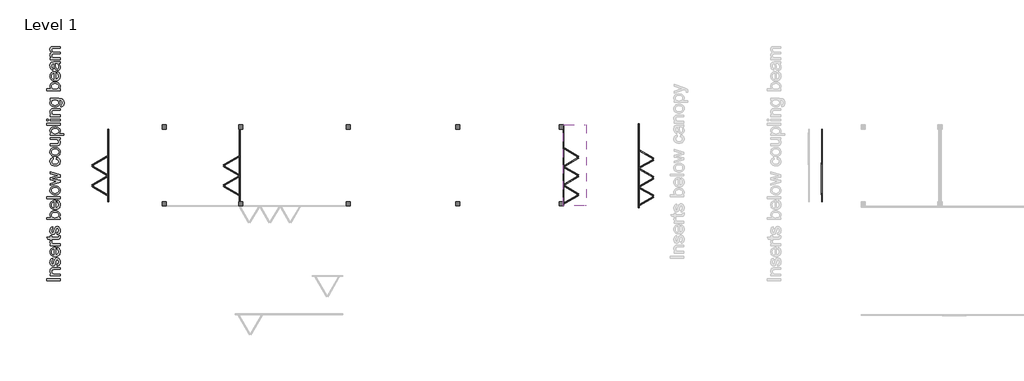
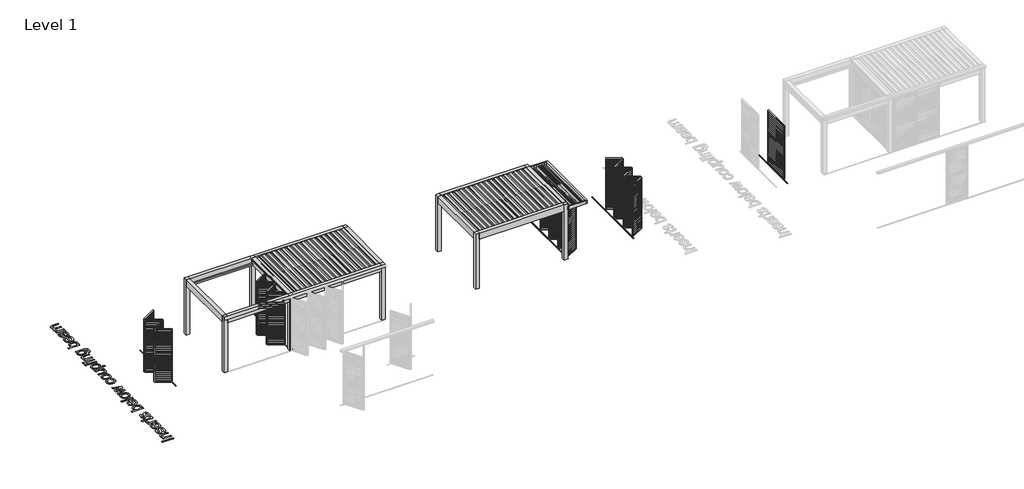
# One storey, part 21 of 80: 9 proxies.
"""IFC4 building model written with IfcOpenShell, lengths in millimetres."""

from ifc_helpers import new_model, si_unit, origin, origin_with_axes, place, context, project, spatial, polyline, outline, extrude, transform, mapped, element, save
from components import generic_models_2752aaec, generic_models_da8762af, generic_models_a6aa64ab, generic_models_b6bb1ce4, generic_models_25cf847c, generic_models_ec5acdc6, generic_models_d351d88b, generic_models_e878d195, generic_models_d69d8d74, generic_models_e3120b8a, generic_models_33ef9a21, generic_models_0657f29a, generic_models_f342dfb5, generic_models_eb283adb, generic_models_13bb7243

model = new_model("IFC4")

# Units and contexts
model_context = context("Model", 3, world=origin())
ifc_project = project(units=[si_unit("LENGTHUNIT", "METRE", prefix="MILLI")], contexts=[model_context])

# Site, building, storey
site = spatial("IfcSite", under=ifc_project)
building = spatial("IfcBuilding", under=site)
storey = spatial("IfcBuildingStorey", under=building, Name="Level 1", Elevation=0.0)

# Proxies
placement = place(None, origin())
generic_models_shape = generic_models_2752aaec(model_context)
generic_models_2_shape = generic_models_da8762af(model_context)
generic_models_3_shape = generic_models_a6aa64ab(model_context)
element("IfcBuildingElementProxy", 1, Name="Renson_Amani_Loggia_Paro_Aluminium_Folding : Renson_Amani_Loggia_Paro_Aluminium_Folding", ObjectType="Renson_Amani_Loggia_Paro_Aluminium_Folding : Renson_Amani_Loggia_Paro_Aluminium_Folding", at=placement, inside=storey, context=model_context, shape_type="MappedRepresentation", body=[
    mapped(generic_models_shape, transform((386870.8031933, -39196.7968905, 0.0), x_axis=(0.0, -1.0, 0.0), y_axis=(1.0, 0.0, 0.0), z_axis=(0.0, 0.0, 1.0))),
    mapped(generic_models_2_shape, transform((386870.8031933, -39196.7968905, 0.0), x_axis=(0.0, -1.0, 0.0), y_axis=(1.0, 0.0, 0.0), z_axis=(0.0, 0.0, 1.0))),
    mapped(generic_models_3_shape, transform((386870.8031933, -39196.7968905, 0.0), x_axis=(0.0, -1.0, 0.0), y_axis=(1.0, 0.0, 0.0), z_axis=(0.0, 0.0, 1.0))),
])
element("IfcBuildingElementProxy", 2, Name="Renson_Amani_Loggia_Paro_Aluminium_Folding : Renson_Amani_Loggia_Paro_Aluminium_Folding", ObjectType="Renson_Amani_Loggia_Paro_Aluminium_Folding : Renson_Amani_Loggia_Paro_Aluminium_Folding", at=placement, inside=storey, context=model_context, shape_type="MappedRepresentation", body=[
    mapped(generic_models_shape, transform((391770.8031933, -39196.7968905, 0.0), x_axis=(0.0, -1.0, 0.0), y_axis=(1.0, 0.0, 0.0), z_axis=(0.0, 0.0, 1.0))),
    mapped(generic_models_2_shape, transform((391770.8031933, -39196.7968905, 0.0), x_axis=(0.0, -1.0, 0.0), y_axis=(1.0, 0.0, 0.0), z_axis=(0.0, 0.0, 1.0))),
    mapped(generic_models_3_shape, transform((391770.8031933, -39196.7968905, 0.0), x_axis=(0.0, -1.0, 0.0), y_axis=(1.0, 0.0, 0.0), z_axis=(0.0, 0.0, 1.0))),
])
generic_models_4_shape = generic_models_b6bb1ce4(model_context)
element("IfcBuildingElementProxy", 3, Name="Renson_Amani_Canopy : Renson_Amani_Canopy", ObjectType="Renson_Amani_Canopy : Renson_Amani_Canopy", at=placement, inside=storey, context=model_context, shape_type="MappedRepresentation", body=[
    mapped(generic_models_4_shape, transform((405265.5749426, -41059.318181, 2400.0), x_axis=(0.0, 1.0, 0.0), y_axis=(-1.0, 0.0, 0.0), z_axis=(0.0, 0.0, 1.0))),
])
generic_models_5_shape = generic_models_25cf847c(model_context)
generic_models_6_shape = generic_models_ec5acdc6(model_context)
generic_models_7_shape = generic_models_d351d88b(model_context)
generic_models_8_shape = generic_models_e878d195(model_context)
element("IfcBuildingElementProxy", 4, Name="Renson_Amani_Loggia_Paro_Aluminium_Folding : Renson_Amani_Loggia_Paro_Aluminium_Folding", ObjectType="Renson_Amani_Loggia_Paro_Aluminium_Folding : Renson_Amani_Loggia_Paro_Aluminium_Folding", at=placement, inside=storey, context=model_context, shape_type="MappedRepresentation", body=[
    mapped(generic_models_5_shape, transform((407793.156506, -41064.3676714, 0.0), x_axis=(0.0, 1.0, 0.0), y_axis=(-1.0, 0.0, 0.0), z_axis=(0.0, 0.0, 1.0))),
    mapped(generic_models_6_shape, transform((407793.156506, -41064.3676714, 0.0), x_axis=(0.0, 1.0, 0.0), y_axis=(-1.0, 0.0, 0.0), z_axis=(0.0, 0.0, 1.0))),
    mapped(generic_models_7_shape, transform((407793.156506, -41064.3676714, 0.0), x_axis=(0.0, 1.0, 0.0), y_axis=(-1.0, 0.0, 0.0), z_axis=(0.0, 0.0, 1.0))),
    mapped(generic_models_8_shape, transform((407793.156506, -41064.3676714, 0.0), x_axis=(0.0, 1.0, 0.0), y_axis=(-1.0, 0.0, 0.0), z_axis=(0.0, 0.0, 1.0))),
])
generic_models_9_shape = generic_models_d69d8d74(model_context)
generic_models_10_shape = generic_models_e3120b8a(model_context)
generic_models_11_shape = generic_models_33ef9a21(model_context)
generic_models_12_shape = generic_models_0657f29a(model_context)
element("IfcBuildingElementProxy", 5, Name="Renson_Amani_Loggia_Paro_Aluminium_Folding : Renson_Amani_Loggia_Paro_Aluminium_Folding", ObjectType="Renson_Amani_Loggia_Paro_Aluminium_Folding : Renson_Amani_Loggia_Paro_Aluminium_Folding", at=placement, inside=storey, context=model_context, shape_type="MappedRepresentation", body=[
    mapped(generic_models_9_shape, transform((404993.156506, -40994.3676714, 0.0), x_axis=(0.0, 1.0, 0.0), y_axis=(-1.0, 0.0, 0.0), z_axis=(0.0, 0.0, 1.0))),
    mapped(generic_models_10_shape, transform((404993.156506, -40994.3676714, 0.0), x_axis=(0.0, 1.0, 0.0), y_axis=(-1.0, 0.0, 0.0), z_axis=(0.0, 0.0, 1.0))),
    mapped(generic_models_11_shape, transform((404993.156506, -40994.3676714, 0.0), x_axis=(0.0, 1.0, 0.0), y_axis=(-1.0, 0.0, 0.0), z_axis=(0.0, 0.0, 1.0))),
    mapped(generic_models_12_shape, transform((404993.156506, -40994.3676714, 0.0), x_axis=(0.0, 1.0, 0.0), y_axis=(-1.0, 0.0, 0.0), z_axis=(0.0, 0.0, 1.0))),
])
generic_models_13_shape = generic_models_f342dfb5(model_context)
element("IfcBuildingElementProxy", 6, Name="Renson_Amani_Patio_Cover : Renson_Amani_Patio_Cover", ObjectType="Renson_Amani_Patio_Cover : Renson_Amani_Patio_Cover", at=placement, inside=storey, context=model_context, shape_type="MappedRepresentation", body=[
    mapped(generic_models_13_shape, transform((390990.5749426, -39559.318181, 0.0), x_axis=(1.0, 0.0, 0.0), y_axis=(0.0, 1.0, 0.0), z_axis=(0.0, 0.0, 1.0))),
])
generic_models_14_shape = generic_models_eb283adb(model_context)
element("IfcBuildingElementProxy", 7, Name="Renson_Amani_Patio_Cover : Renson_Amani_Patio_Cover", ObjectType="Renson_Amani_Patio_Cover : Renson_Amani_Patio_Cover", at=placement, inside=storey, context=model_context, shape_type="MappedRepresentation", body=[
    mapped(generic_models_14_shape, transform((402410.5749426, -39559.318181, 0.0), x_axis=(1.0, 0.0, 0.0), y_axis=(0.0, 1.0, 0.0), z_axis=(0.0, 0.0, 1.0))),
])
generic_models_15_shape = generic_models_13bb7243(model_context)
element("IfcBuildingElementProxy", 8, Name="Renson_Amani_Loggia_Paro_Aluminium_Sliding : Renson_Amani_Loggia_Paro_Aluminium_Sliding", ObjectType="Renson_Amani_Loggia_Paro_Aluminium_Sliding : Renson_Amani_Loggia_Paro_Aluminium_Sliding", at=placement, inside=storey, context=model_context, shape_type="MappedRepresentation", body=[
    mapped(generic_models_15_shape, transform((414036.3699543, -40060.1026897, 0.0), x_axis=(0.0, -1.0, 0.0), y_axis=(1.0, 0.0, 0.0), z_axis=(0.0, 0.0, 1.0))),
])
element("IfcBuildingElementProxy", 9, Name="500mm Arial", ObjectType="500mm Arial", at=placement, inside=storey, context=model_context, shape_type="SweptSolid", body=[
    extrude(outline(polyline([(385692.2046948, -43851.4920703), (385189.9231441, -43851.4920703), (385189.9231441, -43788.7068764), (385692.2046948, -43788.7068764), (385692.2046948, -43851.4920703)])), origin_with_axes(), (0.0, 0.0, 1.0), 5.0),
    extrude(outline(polyline([(385692.2046948, -43670.984638), (385323.341681, -43670.984638), (385323.341681, -43608.1994441), (385374.8451603, -43608.1994441), (385348.8788228, -43586.3871075), (385330.3314389, -43560.1908438), (385319.2030085, -43529.6106529), (385315.4935317, -43494.646535), (385318.482573, -43463.6984621), (385327.4496966, -43435.3562201), (385341.2759282, -43411.7198019), (385358.8422935, -43394.8892006), (385380.1028071, -43383.4695303), (385405.0114839, -43376.0659052), (385465.7120131, -43372.7549672), (385692.2046948, -43372.7549672), (385692.2046948, -43435.5401611), (385474.173299, -43435.5401611), (385441.7077129, -43437.3489142), (385418.6231177, -43442.7751736), (385402.0837564, -43452.7846296), (385389.2538718, -43468.3429723), (385381.0225121, -43488.2852421), (385378.2787256, -43511.4464794), (385379.8192314, -43530.5111974), (385384.440749, -43548.2193505), (385392.1432783, -43564.5709388), (385402.9268193, -43579.5659622), (385418.0176453, -43592.0931105), (385438.6420296, -43601.0410736), (385464.7999723, -43606.4098515), (385496.4914734, -43608.1994441), (385692.2046948, -43608.1994441), (385692.2046948, -43670.984638)])), origin_with_axes(), (0.0, 0.0, 1.0), 5.0),
    extrude(outline(polyline([(385582.3306056, -43309.9697734), (385574.4824563, -43247.1845795), (385601.337842, -43237.2824225), (385621.0808424, -43218.1219019), (385633.2209482, -43189.5803905), (385637.2676502, -43151.5352608), (385633.5581734, -43113.9499836), (385622.4297431, -43087.5237936), (385606.3042489, -43071.8888088), (385587.6035808, -43066.6771472), (385571.6007141, -43071.9194657), (385559.3992945, -43087.646421), (385541.4957041, -43152.2710248), (385524.9256859, -43209.5686455), (385510.7775575, -43246.8166975), (385495.3418421, -43270.7443556), (385474.909063, -43288.0807947), (385450.7821355, -43298.6114168), (385424.263975, -43302.1216241), (385399.9377781, -43299.3011955), (385377.4816479, -43290.8399096), (385357.7846328, -43277.5041873), (385341.7357807, -43260.0604494), (385331.6343543, -43242.7240103), (385323.15774, -43220.1452529), (385317.4095838, -43194.0409596), (385315.4935317, -43166.1279133), (385318.5745435, -43125.262355), (385327.8175786, -43089.7310856), (385342.3182606, -43061.1589173), (385361.1722128, -43041.1706622), (385385.7743212, -43027.9269104), (385417.5194717, -43019.5882519), (385425.367621, -43082.3734457), (385405.6092921, -43090.298237), (385390.7253998, -43105.9792071), (385381.3903941, -43129.56964), (385378.2787256, -43161.22282), (385381.2524384, -43197.2752555), (385390.1735768, -43221.3102125), (385403.0494466, -43234.8298759), (385417.8873537, -43239.3364303), (385427.5442561, -43237.4663635), (385436.1588262, -43231.8561631), (385443.8536912, -43222.2605744), (385450.0157146, -43208.4343427), (385463.3820938, -43154.3556894), (385492.9352807, -43062.2012496), (385507.0680807, -43037.8597243), (385526.4125423, -43019.4043109), (385551.0299792, -43007.7700428), (385580.9817049, -43003.8919534), (385611.9451062, -43008.4444931), (385641.0690975, -43022.1021122), (385666.0697447, -43044.3436444), (385684.6631139, -43074.6479238), (385696.2054115, -43111.2521823), (385700.052844, -43152.3936521), (385698.1981056, -43186.1851462), (385692.6338905, -43215.7000121), (385683.3601985, -43240.9382498), (385670.3770298, -43261.8998593), (385653.7456979, -43279.0217005), (385633.5275166, -43292.7406333), (385609.7224858, -43303.0566576), (385582.3306056, -43309.9697734)])), origin_with_axes(), (0.0, 0.0, 1.0), 5.0),
    extrude(outline(polyline([(385582.3306056, -42675.0054497), (385590.1787548, -42613.4465292), (385614.8345127, -42622.8850016), (385636.562543, -42635.6267478), (385655.3628458, -42651.6717677), (385671.2354211, -42671.0200614), (385683.8430436, -42693.4723594), (385692.8484883, -42718.8293924), (385698.2517551, -42747.0911602), (385700.052844, -42778.257663), (385696.9450076, -42817.2148335), (385687.6214983, -42851.9260326), (385672.0823161, -42882.3912603), (385650.327461, -42908.6105166), (385622.9624055, -42929.6947535), (385590.5926221, -42944.7549227), (385553.2181106, -42953.7910242), (385510.8388712, -42956.803058), (385467.0225927, -42953.7603673), (385428.4026474, -42944.6322953), (385394.9790353, -42929.418842), (385366.7517564, -42908.1200073), (385344.3262831, -42881.9697288), (385328.3080879, -42852.201944), (385318.6971708, -42818.816653), (385315.4935317, -42781.8138556), (385318.6895066, -42746.0028427), (385328.2774311, -42713.6177308), (385344.2573052, -42684.65852), (385366.6291291, -42659.1252102), (385394.7950943, -42638.282396), (385428.1573928, -42623.3946715), (385466.7160244, -42614.4620368), (385510.4709892, -42611.4844919), (385527.393561, -42611.8523739), (385527.393561, -42894.0178642), (385552.4478577, -42890.3811974), (385574.3904858, -42883.1500169), (385593.2214455, -42872.3243228), (385608.9407366, -42857.904115), (385621.3337613, -42840.6864712), (385630.1859218, -42821.468469), (385635.4972181, -42800.2501085), (385637.2676502, -42777.0313897), (385633.9873691, -42743.6154418), (385624.1465257, -42715.4724692), (385607.1319834, -42692.6024718), (385582.3306056, -42675.0054497)]), holes=[polyline([(385464.6083671, -42894.0178642), (385464.6083671, -42674.2696857), (385431.4376739, -42682.7616284), (385407.7092852, -42699.4082887), (385394.8334154, -42716.5301299), (385385.6363655, -42736.0125472), (385380.1181356, -42757.8555407), (385378.2787256, -42782.0591103), (385384.1495091, -42824.3808682), (385391.4879885, -42842.7941284), (385401.7618596, -42859.375643), (385414.4959416, -42873.290013), (385429.2150535, -42883.7018399), (385445.9191953, -42890.6111236), (385464.6083671, -42894.0178642)])]), origin_with_axes(), (0.0, 0.0, 1.0), 5.0),
    extrude(outline(polyline([(385639.8428242, -42179.8362842), (385694.0441048, -42171.988135), (385700.052844, -42218.954403), (385697.4470132, -42249.0900698), (385689.6295208, -42271.5615283), (385677.5813855, -42287.4417678), (385662.2836259, -42297.8037773), (385636.01072, -42303.5059482), (385591.0371461, -42305.4066719), (385386.1268748, -42305.4066719), (385386.1268748, -42352.4955673), (385334.8686502, -42352.4955673), (385323.341681, -42352.4955673), (385323.341681, -42305.4066719), (385233.7011015, -42305.4066719), (385196.7902746, -42242.621478), (385323.341681, -42242.621478), (385323.341681, -42179.8362842), (385386.1268748, -42179.8362842), (385386.1268748, -42242.621478), (385589.1977362, -42242.621478), (385621.5713517, -42239.3105401), (385633.0370072, -42228.5806486), (385637.2676502, -42207.1821792), (385639.8428242, -42179.8362842)])), origin_with_axes(), (0.0, 0.0, 1.0), 5.0),
    extrude(outline(polyline([(385692.2046948, -42548.699298), (385323.341681, -42548.699298), (385323.341681, -42493.7622534), (385377.9108436, -42493.7622534), (385346.272992, -42473.46743), (385327.6336376, -42454.7667619), (385318.5285582, -42436.0047802), (385315.4935317, -42415.5260158), (385320.3373113, -42384.2560462), (385334.8686502, -42352.4955673), (385391.1545954, -42373.464841), (385381.497693, -42395.5377607), (385378.2787256, -42417.6106804), (385381.3750657, -42436.3573337), (385390.6640861, -42453.1112929), (385405.4406796, -42466.6462847), (385424.999739, -42475.7360356), (385460.0711558, -42483.369587), (385498.3308833, -42485.9141042), (385692.2046948, -42485.9141042), (385692.2046948, -42548.699298)])), origin_with_axes(), (0.0, 0.0, 1.0), 5.0),
    extrude(outline(polyline([(385582.3306056, -42140.595538), (385574.4824563, -42077.8103442), (385601.337842, -42067.9081872), (385621.0808424, -42048.7476666), (385633.2209482, -42020.2061551), (385637.2676502, -41982.1610255), (385633.5581734, -41944.5757483), (385622.4297431, -41918.1495583), (385606.3042489, -41902.5145735), (385587.6035808, -41897.3029119), (385571.6007141, -41902.5452303), (385559.3992945, -41918.2721856), (385541.4957041, -41982.8967894), (385524.9256859, -42040.1944102), (385510.7775575, -42077.4424622), (385495.3418421, -42101.3701203), (385474.909063, -42118.7065593), (385450.7821355, -42129.2371814), (385424.263975, -42132.7473888), (385399.9377781, -42129.9269602), (385377.4816479, -42121.4656743), (385357.7846328, -42108.129952), (385341.7357807, -42090.686214), (385331.6343543, -42073.349775), (385323.15774, -42050.7710176), (385317.4095838, -42024.6667243), (385315.4935317, -41996.7536779), (385318.5745435, -41955.8881196), (385327.8175786, -41920.3568503), (385342.3182606, -41891.784682), (385361.1722128, -41871.7964269), (385385.7743212, -41858.5526751), (385417.5194717, -41850.2140165), (385425.367621, -41912.9992104), (385405.6092921, -41920.9240017), (385390.7253998, -41936.6049717), (385381.3903941, -41960.1954047), (385378.2787256, -41991.8485847), (385381.2524384, -42027.9010202), (385390.1735768, -42051.9359772), (385403.0494466, -42065.4556405), (385417.8873537, -42069.962195), (385427.5442561, -42068.0921282), (385436.1588262, -42062.4819277), (385443.8536912, -42052.886339), (385450.0157146, -42039.0601074), (385463.3820938, -41984.9814541), (385492.9352807, -41892.8270143), (385507.0680807, -41868.4854889), (385526.4125423, -41850.0300755), (385551.0299792, -41838.3958074), (385580.9817049, -41834.5177181), (385611.9451062, -41839.0702577), (385641.0690975, -41852.7278768), (385666.0697447, -41874.9694091), (385684.6631139, -41905.2736885), (385696.2054115, -41941.877947), (385700.052844, -41983.0194168), (385698.1981056, -42016.8109109), (385692.6338905, -42046.3257768), (385683.3601985, -42071.5640145), (385670.3770298, -42092.525624), (385653.7456979, -42109.6474652), (385633.5275166, -42123.3663979), (385609.7224858, -42133.6824222), (385582.3306056, -42140.595538)])), origin_with_axes(), (0.0, 0.0, 1.0), 5.0),
    extrude(outline(polyline([(385692.2046948, -41504.8954504), (385692.2046948, -41567.6806442), (385189.9231441, -41567.6806442), (385189.9231441, -41504.8954504), (385376.1940609, -41504.8954504), (385349.6375794, -41484.2480734), (385330.668664, -41460.933552), (385319.2873148, -41434.951886), (385315.4935317, -41406.3030757), (385318.9117686, -41373.9601169), (385329.1664792, -41343.3952545), (385345.6138701, -41316.3559278), (385367.6101477, -41294.5895765), (385394.9407143, -41277.5290489), (385427.3909719, -41264.6071939), (385463.6120201, -41256.4678047), (385502.254958, -41253.754675), (385546.8453215, -41256.5636073), (385586.0707392, -41264.9904043), (385619.9312112, -41279.0350659), (385648.4267374, -41298.6975921), (385671.013159, -41322.2995213), (385687.1463174, -41348.162392), (385696.8262124, -41376.2862041), (385700.052844, -41406.6709577), (385695.891179, -41436.2624657), (385683.4061838, -41462.4970504), (385662.5978584, -41485.374712), (385633.4662029, -41504.8954504), (385692.2046948, -41504.8954504)]), holes=[polyline([(385505.1980139, -41504.8954504), (385557.5598846, -41500.6034938), (385577.3948555, -41495.238548), (385592.9991834, -41487.7276239), (385612.3666376, -41472.5141706), (385626.2005335, -41454.8328422), (385634.500871, -41434.6836388), (385637.2676502, -41412.0665603), (385635.2289708, -41393.2892501), (385629.1129326, -41375.8301837), (385618.9195357, -41359.6893612), (385604.64878, -41344.8667825), (385586.3389865, -41332.4737578), (385564.0284763, -41323.6215973), (385537.7172495, -41318.3103009), (385507.4053059, -41316.5398688), (385476.5185467, -41318.237491), (385449.954401, -41323.3303573), (385427.7128687, -41331.818468), (385409.7939498, -41343.7018228), (385396.0060392, -41357.9917391), (385386.1575316, -41373.6995338), (385380.2484271, -41390.8252071), (385378.2787256, -41409.368759), (385380.317405, -41428.1460691), (385386.4334431, -41445.6051355), (385396.6268401, -41461.745958), (385410.8975958, -41476.5685367), (385429.0234483, -41488.9615615), (385450.7821355, -41497.813722), (385476.1736573, -41503.1250183), (385505.1980139, -41504.8954504)])]), origin_with_axes(), (0.0, 0.0, 1.0), 5.0),
    extrude(outline(polyline([(385582.3306056, -40924.8681713), (385590.1787548, -40863.3092508), (385614.8345127, -40872.7477232), (385636.562543, -40885.4894694), (385655.3628458, -40901.5344894), (385671.2354211, -40920.882783), (385683.8430436, -40943.3350811), (385692.8484883, -40968.692114), (385698.2517551, -40996.9538818), (385700.052844, -41028.1203846), (385696.9450076, -41067.0775551), (385687.6214983, -41101.7887542), (385672.0823161, -41132.2539819), (385650.327461, -41158.4732383), (385622.9624055, -41179.5574751), (385590.5926221, -41194.6176443), (385553.2181106, -41203.6537458), (385510.8388712, -41206.6657796), (385467.0225927, -41203.623089), (385428.4026474, -41194.4950169), (385394.9790353, -41179.2815636), (385366.7517564, -41157.9827289), (385344.3262831, -41131.8324504), (385328.3080879, -41102.0646657), (385318.6971708, -41068.6793746), (385315.4935317, -41031.6765772), (385318.6895066, -40995.8655643), (385328.2774311, -40963.4804524), (385344.2573052, -40934.5212416), (385366.6291291, -40908.9879319), (385394.7950943, -40888.1451176), (385428.1573928, -40873.2573931), (385466.7160244, -40864.3247584), (385510.4709892, -40861.3472135), (385527.393561, -40861.7150955), (385527.393561, -41143.8805858), (385552.4478577, -41140.243919), (385574.3904858, -41133.0127385), (385593.2214455, -41122.1870444), (385608.9407366, -41107.7668366), (385621.3337613, -41090.5491928), (385630.1859218, -41071.3311906), (385635.4972181, -41050.1128302), (385637.2676502, -41026.8941113), (385633.9873691, -40993.4781634), (385624.1465257, -40965.3351908), (385607.1319834, -40942.4651934), (385582.3306056, -40924.8681713)]), holes=[polyline([(385464.6083671, -41143.8805858), (385464.6083671, -40924.1324073), (385431.4376739, -40932.62435), (385407.7092852, -40949.2710103), (385394.8334154, -40966.3928515), (385385.6363655, -40985.8752688), (385380.1181356, -41007.7182623), (385378.2787256, -41031.9218319), (385384.1495091, -41074.2435898), (385391.4879885, -41092.6568501), (385401.7618596, -41109.2383646), (385414.4959416, -41123.1527346), (385429.2150535, -41133.5645615), (385445.9191953, -41140.4738452), (385464.6083671, -41143.8805858)])]), origin_with_axes(), (0.0, 0.0, 1.0), 5.0),
    extrude(outline(polyline([(385692.2046948, -40798.5620196), (385189.9231441, -40798.5620196), (385189.9231441, -40735.7768258), (385692.2046948, -40735.7768258), (385692.2046948, -40798.5620196)])), origin_with_axes(), (0.0, 0.0, 1.0), 5.0),
    extrude(outline(polyline([(385507.7731879, -40657.2953335), (385460.002178, -40653.9000892), (385418.8377156, -40643.7143565), (385384.2798006, -40626.7381353), (385356.3284332, -40602.9714255), (385338.4631638, -40579.0437674), (385325.7022571, -40552.6329059), (385318.0457131, -40523.7388408), (385315.4935317, -40492.3615723), (385318.6013682, -40457.7231832), (385327.9248775, -40426.4033963), (385343.4640597, -40398.4022115), (385365.2189148, -40373.7196289), (385392.4536787, -40353.5742575), (385424.4325876, -40339.1847066), (385461.1556413, -40330.550976), (385502.62284, -40327.6730658), (385566.0518273, -40332.7621001), (385592.0871427, -40339.1233929), (385614.3363392, -40348.0292029), (385633.5543413, -40359.368399), (385650.4960736, -40373.0298501), (385665.1615361, -40389.0135564), (385677.5507287, -40407.3195178), (385694.4273152, -40448.0471203), (385700.052844, -40492.3615723), (385696.9565039, -40527.5057992), (385687.6674835, -40559.116826), (385672.1857829, -40587.1946529), (385650.511402, -40611.7392798), (385623.0122229, -40631.6700533), (385590.0561275, -40645.9063201), (385551.6431158, -40654.4480801), (385507.7731879, -40657.2953335)]), holes=[polyline([(385507.6505606, -40594.5101396), (385538.104292, -40592.6937223), (385564.4730004, -40587.2444702), (385586.7566858, -40578.1623835), (385604.9553483, -40565.447462), (385619.0919804, -40549.9810898), (385629.1895747, -40532.6446508), (385635.2481313, -40513.438145), (385637.2676502, -40492.3615723), (385635.236635, -40471.3922986), (385629.1435895, -40452.2624348), (385618.9885136, -40434.9719811), (385604.7714073, -40419.5209373), (385586.3926359, -40406.8060158), (385563.7525648, -40397.7239291), (385536.8511939, -40392.274677), (385505.6885232, -40390.4582597), (385476.2004821, -40392.2861733), (385450.5215524, -40397.7699143), (385428.6517342, -40406.9094826), (385410.5910275, -40419.7048783), (385396.4543954, -40435.2134036), (385386.3568011, -40452.4923611), (385380.2982445, -40471.5417507), (385378.2787256, -40492.3615723), (385380.2905802, -40513.438145), (385386.3261442, -40532.6446508), (385396.3854175, -40549.9810898), (385410.4684002, -40565.447462), (385428.6134132, -40578.1623835), (385450.8587776, -40587.2444702), (385477.2044934, -40592.6937223), (385507.6505606, -40594.5101396)])]), origin_with_axes(), (0.0, 0.0, 1.0), 5.0),
    extrude(outline(polyline([(385692.2046948, -40195.8486842), (385323.341681, -40308.0526927), (385323.341681, -40242.8149523), (385538.5526482, -40179.1713671), (385615.4399851, -40160.1641307), (385541.3730768, -40144.5904595), (385323.341681, -40093.9453715), (385323.341681, -40019.1426992), (385540.7599401, -39968.7428659), (385607.8370906, -39954.8859774), (385537.0811202, -39935.0203496), (385323.341681, -39871.2541371), (385323.341681, -39805.771142), (385692.2046948, -39918.8335418), (385692.2046948, -39994.7398602), (385475.8900816, -40042.9324015), (385408.4450492, -40056.9119174), (385692.2046948, -40119.0839745), (385692.2046948, -40195.8486842)])), origin_with_axes(), (0.0, 0.0, 1.0), 5.0),
    extrude(outline(polyline([(385558.7861579, -39330.9581135), (385566.6343071, -39268.1729197), (385596.260304, -39275.0017292), (385622.4757283, -39285.6779713), (385645.2805799, -39300.2016459), (385664.6748588, -39318.572753), (385680.1527274, -39340.0172077), (385691.2083477, -39363.7609248), (385697.84172, -39389.8039044), (385700.052844, -39418.1461464), (385696.9680002, -39453.3593511), (385687.7134688, -39484.9320569), (385672.2892497, -39512.8642638), (385650.695343, -39537.1559718), (385623.3379517, -39556.8184981), (385590.6232789, -39570.8631597), (385552.5513245, -39579.2899566), (385509.1220885, -39582.0988889), (385453.2500105, -39577.3010946), (385404.8275429, -39562.9077115), (385383.8774297, -39552.0551926), (385365.7247525, -39538.6888135), (385350.3695113, -39522.808574), (385337.8117061, -39504.4144743), (385321.0730753, -39463.4109602), (385315.4935317, -39419.0045377), (385317.4095838, -39391.1489729), (385323.15774, -39365.9528883), (385332.7380003, -39343.416284), (385346.1503647, -39323.53916), (385363.0882649, -39306.6587413), (385383.2451325, -39293.1122533), (385406.6209676, -39282.8996958), (385433.2157702, -39276.0210689), (385441.0639194, -39338.8062628), (385413.6720392, -39350.1952762), (385394.0363377, -39367.9302541), (385382.2181286, -39391.0301777), (385378.2787256, -39418.5140284), (385380.2177703, -39439.847352), (385386.0349043, -39459.0883468), (385395.7301277, -39476.2370127), (385409.3034405, -39491.2933498), (385427.0690752, -39503.5522508), (385449.3412643, -39512.3086088), (385476.1200079, -39517.5624235), (385507.4053059, -39519.3136951), (385539.1619527, -39517.6007445), (385566.2510967, -39512.4618929), (385588.6727379, -39503.8971402), (385606.4268763, -39491.9064864), (385619.9197149, -39477.1490535), (385629.5574567, -39460.2839633), (385635.3401018, -39441.3112158), (385637.2676502, -39420.230811), (385632.4545274, -39387.7192397), (385618.0151591, -39361.0631235), (385607.0936624, -39350.2834146), (385593.5816633, -39341.6726767), (385558.7861579, -39330.9581135)])), origin_with_axes(), (0.0, 0.0, 1.0), 5.0),
    extrude(outline(polyline([(385507.7731879, -39228.9321736), (385460.002178, -39225.5369293), (385418.8377156, -39215.3511966), (385384.2798006, -39198.3749753), (385356.3284332, -39174.6082656), (385338.4631638, -39150.6806075), (385325.7022571, -39124.2697459), (385318.0457131, -39095.3756809), (385315.4935317, -39063.9984124), (385318.6013682, -39029.3600233), (385327.9248775, -38998.0402363), (385343.4640597, -38970.0390515), (385365.2189148, -38945.3564689), (385392.4536787, -38925.2110976), (385424.4325876, -38910.8215466), (385461.1556413, -38902.1878161), (385502.62284, -38899.3099059), (385566.0518273, -38904.3989401), (385592.0871427, -38910.760233), (385614.3363392, -38919.6660429), (385633.5543413, -38931.005239), (385650.4960736, -38944.6666902), (385665.1615361, -38960.6503965), (385677.5507287, -38978.9563578), (385694.4273152, -39019.6839604), (385700.052844, -39063.9984124), (385696.9565039, -39099.1426392), (385687.6674835, -39130.7536661), (385672.1857829, -39158.8314929), (385650.511402, -39183.3761198), (385623.0122229, -39203.3068933), (385590.0561275, -39217.5431601), (385551.6431158, -39226.0849202), (385507.7731879, -39228.9321736)]), holes=[polyline([(385507.6505606, -39166.1469797), (385538.104292, -39164.3305624), (385564.4730004, -39158.8813103), (385586.7566858, -39149.7992235), (385604.9553483, -39137.0843021), (385619.0919804, -39121.6179299), (385629.1895747, -39104.2814909), (385635.2481313, -39085.074985), (385637.2676502, -39063.9984124), (385635.236635, -39043.0291387), (385629.1435895, -39023.8992749), (385618.9885136, -39006.6088211), (385604.7714073, -38991.1577773), (385586.3926359, -38978.4428559), (385563.7525648, -38969.3607691), (385536.8511939, -38963.9115171), (385505.6885232, -38962.0950997), (385476.2004821, -38963.9230134), (385450.5215524, -38969.4067544), (385428.6517342, -38978.5463227), (385410.5910275, -38991.3417183), (385396.4543954, -39006.8502437), (385386.3568011, -39024.1292012), (385380.2982445, -39043.1785907), (385378.2787256, -39063.9984124), (385380.2905802, -39085.074985), (385386.3261442, -39104.2814909), (385396.3854175, -39121.6179299), (385410.4684002, -39137.0843021), (385428.6134132, -39149.7992235), (385450.8587776, -39158.8813103), (385477.2044934, -39164.3305624), (385507.6505606, -39166.1469797)])]), origin_with_axes(), (0.0, 0.0, 1.0), 5.0),
    extrude(outline(polyline([(385692.2046948, -38593.2320859), (385628.8063643, -38593.2320859), (385659.9766992, -38615.9487991), (385682.2412241, -38642.4056459), (385695.5999391, -38672.6026263), (385700.052844, -38706.5397404), (385696.9258471, -38737.1199312), (385687.5448562, -38765.5848006), (385673.442713, -38789.4664735), (385656.1522593, -38806.2970748), (385635.1523287, -38817.6247745), (385609.9217552, -38824.9977428), (385551.5511453, -38828.6765628), (385323.341681, -38828.6765628), (385323.341681, -38765.891369), (385521.9979584, -38765.891369), (385586.0094255, -38762.0899217), (385607.3619097, -38752.938857), (385623.5947027, -38737.257887), (385633.8494133, -38716.0893439), (385637.2676502, -38690.4755599), (385633.7727712, -38663.390248), (385623.2881344, -38638.0523756), (385606.7794298, -38617.159744), (385585.2123479, -38603.4101544), (385555.6744893, -38595.776603), (385515.2534551, -38593.2320859), (385323.341681, -38593.2320859), (385323.341681, -38530.446892), (385692.2046948, -38530.446892), (385692.2046948, -38593.2320859)])), origin_with_axes(), (0.0, 0.0, 1.0), 5.0),
    extrude(outline(polyline([(385833.471381, -38444.1172505), (385323.341681, -38444.1172505), (385323.341681, -38381.3320567), (385384.9006015, -38381.3320567), (385354.5350085, -38360.8532923), (385332.8452992, -38337.9219812), (385319.8314736, -38311.1892229), (385315.4935317, -38279.3061167), (385317.011045, -38257.4094737), (385321.5635847, -38236.8464031), (385329.1511508, -38217.6169046), (385339.7737434, -38199.7209784), (385353.155451, -38183.549499), (385369.020362, -38169.4933411), (385408.1997945, -38147.7269897), (385454.4609554, -38134.5752084), (385504.9527593, -38130.1912813), (385558.6482021, -38135.1423598), (385606.6721309, -38149.9955954), (385627.947973, -38161.0167268), (385646.5873274, -38174.275807), (385662.5901942, -38189.7728361), (385675.9565733, -38207.5078139), (385694.0287764, -38246.2120655), (385700.052844, -38286.9090112), (385696.0214705, -38315.7724194), (385683.9273499, -38341.5394875), (385665.6712059, -38363.5970788), (385643.1537621, -38381.3320567), (385833.471381, -38381.3320567), (385833.471381, -38444.1172505)]), holes=[polyline([(385510.7162438, -38381.3320567), (385540.974538, -38379.6344345), (385567.0021891, -38374.5415682), (385588.7991973, -38366.0534576), (385606.3655626, -38354.1701027), (385619.8852259, -38339.864858), (385629.5421283, -38324.111078), (385635.3362697, -38306.9087626), (385637.2676502, -38288.2579119), (385635.2672918, -38269.3388139), (385629.2662168, -38251.8222659), (385619.2644251, -38235.7082681), (385605.2619166, -38220.9968204), (385587.0594221, -38208.7379194), (385564.457672, -38199.9815615), (385537.4566664, -38194.7277467), (385506.0564052, -38192.9764751), (385476.0586942, -38194.6855936), (385450.0770283, -38199.8129489), (385428.1114075, -38208.3585411), (385410.1618318, -38220.3223701), (385396.2129729, -38234.6621037), (385386.2495021, -38250.3354095), (385380.2714197, -38267.3422876), (385378.2787256, -38285.6827379), (385380.3978792, -38303.9657067), (385386.7553399, -38321.168022), (385397.3511078, -38337.2896841), (385412.1851828, -38352.3306927), (385431.0582956, -38365.0187894), (385453.7711767, -38374.0817157), (385480.3238261, -38379.5194714), (385510.7162438, -38381.3320567)])]), origin_with_axes(), (0.0, 0.0, 1.0), 5.0),
    extrude(outline(polyline([(385692.2046948, -38059.5579382), (385189.9231441, -38059.5579382), (385189.9231441, -37996.7727444), (385692.2046948, -37996.7727444), (385692.2046948, -38059.5579382)])), origin_with_axes(), (0.0, 0.0, 1.0), 5.0),
    extrude(outline(polyline([(385692.2046948, -37902.5949536), (385323.341681, -37902.5949536), (385323.341681, -37839.8097598), (385692.2046948, -37839.8097598), (385692.2046948, -37902.5949536)])), origin_with_axes(), (0.0, 0.0, 1.0), 5.0),
    extrude(outline(polyline([(385252.7083379, -37902.5949536), (385189.9231441, -37902.5949536), (385189.9231441, -37839.8097598), (385252.7083379, -37839.8097598), (385252.7083379, -37902.5949536)])), origin_with_axes(), (0.0, 0.0, 1.0), 5.0),
    extrude(outline(polyline([(385692.2046948, -37745.631969), (385323.341681, -37745.631969), (385323.341681, -37682.8467752), (385374.8451603, -37682.8467752), (385348.8788228, -37661.0344385), (385330.3314389, -37634.8381748), (385319.2030085, -37604.2579839), (385315.4935317, -37569.293866), (385318.482573, -37538.3457931), (385327.4496966, -37510.0035511), (385341.2759282, -37486.3671329), (385358.8422935, -37469.5365316), (385380.1028071, -37458.1168614), (385405.0114839, -37450.7132362), (385465.7120131, -37447.4022982), (385692.2046948, -37447.4022982), (385692.2046948, -37510.1874921), (385474.173299, -37510.1874921), (385441.7077129, -37511.9962452), (385418.6231177, -37517.4225047), (385402.0837564, -37527.4319606), (385389.2538718, -37542.9903033), (385381.0225121, -37562.9325731), (385378.2787256, -37586.0938104), (385379.8192314, -37605.1585284), (385384.440749, -37622.8666815), (385392.1432783, -37639.2182698), (385402.9268193, -37654.2132932), (385418.0176453, -37666.7404416), (385438.6420296, -37675.6884047), (385464.7999723, -37681.0571825), (385496.4914734, -37682.8467752), (385692.2046948, -37682.8467752), (385692.2046948, -37745.631969)])), origin_with_axes(), (0.0, 0.0, 1.0), 5.0),
    extrude(outline(polyline([(385723.5972917, -37376.7689552), (385731.445441, -37313.9837613), (385751.065814, -37307.0553171), (385764.5548205, -37293.6276243), (385775.0394574, -37267.2320911), (385778.5343363, -37232.6818404), (385774.5796049, -37195.8323272), (385762.7154105, -37168.4251186), (385743.7081741, -37149.4178821), (385718.3243165, -37137.7682856), (385691.3156466, -37134.3653772), (385645.1157994, -37133.476329), (385665.7171912, -37154.3689607), (385680.432471, -37177.6834821), (385689.2616388, -37203.4198934), (385692.2046948, -37231.5781944), (385688.7787937, -37266.0019857), (385678.5010905, -37296.3100971), (385661.3715851, -37322.5025288), (385637.3902775, -37344.5792806), (385608.6188398, -37362.0958285), (385577.118944, -37374.6076484), (385542.89059, -37382.1147404), (385505.9337779, -37384.6171044), (385455.2427047, -37380.1258784), (385408.6289902, -37366.6522003), (385369.127661, -37344.6712511), (385353.1822757, -37330.6687426), (385339.7737434, -37314.6582116), (385329.1511508, -37296.8964091), (385321.5635847, -37277.6400859), (385317.011045, -37256.8892421), (385315.4935317, -37234.6438777), (385318.927097, -37205.282296), (385329.2277929, -37178.6338439), (385346.3956193, -37154.6985216), (385370.4305764, -37133.476329), (385323.341681, -37133.476329), (385323.341681, -37070.6911352), (385641.8048615, -37070.6911352), (385715.3352752, -37074.9830918), (385742.6850023, -37080.3480376), (385763.7577429, -37087.8589616), (385795.8707754, -37110.0391802), (385820.4728838, -37142.2441832), (385829.5932916, -37161.9297021), (385836.1078686, -37183.7688634), (385841.3195302, -37233.9081137), (385839.4839523, -37264.6684134), (385833.9772187, -37292.3247089), (385824.7993293, -37316.8769999), (385811.9502842, -37338.3252867), (385795.414755, -37355.6502294), (385775.1774131, -37367.8324884), (385751.2382587, -37374.8720636), (385723.5972917, -37376.7689552)]), holes=[polyline([(385501.6418213, -37321.8319106), (385532.6856967, -37320.1572811), (385559.230682, -37315.1333926), (385581.2767769, -37306.7602451), (385598.8239817, -37295.0378386), (385612.2095214, -37280.7862434), (385621.7706211, -37264.8255297), (385627.507281, -37247.1556976), (385629.419501, -37227.7767471), (385627.5187773, -37208.5894018), (385621.8166064, -37191.003876), (385612.3129882, -37175.0201697), (385599.0079227, -37160.638283), (385581.6331626, -37148.7549281), (385559.9204607, -37140.2668175), (385533.8698169, -37135.1739511), (385503.4812313, -37133.476329), (385474.3610721, -37135.2237685), (385449.0500244, -37140.4660869), (385427.5480882, -37149.2032843), (385409.8552635, -37161.4353607), (385396.0405282, -37176.1276478), (385386.1728601, -37192.2454778), (385380.2522592, -37209.7888504), (385378.2787256, -37228.7577658), (385380.2216024, -37247.4086165), (385386.0502327, -37264.6109319), (385395.7646167, -37280.3647119), (385409.3647542, -37294.6699566), (385426.7893316, -37306.5533114), (385447.9770353, -37315.0414221), (385472.9278652, -37320.1342884), (385501.6418213, -37321.8319106)])]), origin_with_axes(), (0.0, 0.0, 1.0), 5.0),
    extrude(outline(polyline([(385692.2046948, -36717.5244198), (385692.2046948, -36780.3096137), (385189.9231441, -36780.3096137), (385189.9231441, -36717.5244198), (385376.1940609, -36717.5244198), (385349.6375794, -36696.8770428), (385330.668664, -36673.5625214), (385319.2873148, -36647.5808555), (385315.4935317, -36618.9320451), (385318.9117686, -36586.5890864), (385329.1664792, -36556.0242239), (385345.6138701, -36528.9848973), (385367.6101477, -36507.2185459), (385394.9407143, -36490.1580184), (385427.3909719, -36477.2361633), (385463.6120201, -36469.0967742), (385502.254958, -36466.3836444), (385546.8453215, -36469.1925768), (385586.0707392, -36477.6193737), (385619.9312112, -36491.6640353), (385648.4267374, -36511.3265615), (385671.013159, -36534.9284908), (385687.1463174, -36560.7913614), (385696.8262124, -36588.9151736), (385700.052844, -36619.2999271), (385695.891179, -36648.8914351), (385683.4061838, -36675.1260199), (385662.5978584, -36698.0036814), (385633.4662029, -36717.5244198), (385692.2046948, -36717.5244198)]), holes=[polyline([(385505.1980139, -36717.5244198), (385557.5598846, -36713.2324632), (385577.3948555, -36707.8675174), (385592.9991834, -36700.3565934), (385612.3666376, -36685.14314), (385626.2005335, -36667.4618116), (385634.500871, -36647.3126082), (385637.2676502, -36624.6955297), (385635.2289708, -36605.9182195), (385629.1129326, -36588.4591532), (385618.9195357, -36572.3183306), (385604.64878, -36557.4957519), (385586.3389865, -36545.1027272), (385564.0284763, -36536.2505667), (385537.7172495, -36530.9392704), (385507.4053059, -36529.1688383), (385476.5185467, -36530.8664604), (385449.954401, -36535.9593268), (385427.7128687, -36544.4474374), (385409.7939498, -36556.3307923), (385396.0060392, -36570.6207085), (385386.1575316, -36586.3285033), (385380.2484271, -36603.4541766), (385378.2787256, -36621.9977284), (385380.317405, -36640.7750386), (385386.4334431, -36658.2341049), (385396.6268401, -36674.3749275), (385410.8975958, -36689.1975062), (385429.0234483, -36701.5905309), (385450.7821355, -36710.4426914), (385476.1736573, -36715.7539877), (385505.1980139, -36717.5244198)])]), origin_with_axes(), (0.0, 0.0, 1.0), 5.0),
    extrude(outline(polyline([(385582.3306056, -36137.4971407), (385590.1787548, -36075.9382202), (385614.8345127, -36085.3766927), (385636.562543, -36098.1184388), (385655.3628458, -36114.1634588), (385671.2354211, -36133.5117525), (385683.8430436, -36155.9640505), (385692.8484883, -36181.3210834), (385698.2517551, -36209.5828513), (385700.052844, -36240.7493541), (385696.9450076, -36279.7065245), (385687.6214983, -36314.4177236), (385672.0823161, -36344.8829513), (385650.327461, -36371.1022077), (385622.9624055, -36392.1864445), (385590.5926221, -36407.2466137), (385553.2181106, -36416.2827152), (385510.8388712, -36419.2947491), (385467.0225927, -36416.2520584), (385428.4026474, -36407.1239864), (385394.9790353, -36391.910533), (385366.7517564, -36370.6116984), (385344.3262831, -36344.4614199), (385328.3080879, -36314.6936351), (385318.6971708, -36281.308344), (385315.4935317, -36244.3055467), (385318.6895066, -36208.4945337), (385328.2774311, -36176.1094218), (385344.2573052, -36147.150211), (385366.6291291, -36121.6169013), (385394.7950943, -36100.774087), (385428.1573928, -36085.8863625), (385466.7160244, -36076.9537278), (385510.4709892, -36073.9761829), (385527.393561, -36074.3440649), (385527.393561, -36356.5095552), (385552.4478577, -36352.8728884), (385574.3904858, -36345.6417079), (385593.2214455, -36334.8160138), (385608.9407366, -36320.395806), (385621.3337613, -36303.1781622), (385630.1859218, -36283.9601601), (385635.4972181, -36262.7417996), (385637.2676502, -36239.5230807), (385633.9873691, -36206.1071328), (385624.1465257, -36177.9641602), (385607.1319834, -36155.0941629), (385582.3306056, -36137.4971407)]), holes=[polyline([(385464.6083671, -36356.5095552), (385464.6083671, -36136.7613768), (385431.4376739, -36145.2533195), (385407.7092852, -36161.8999798), (385394.8334154, -36179.021821), (385385.6363655, -36198.5042383), (385380.1181356, -36220.3472317), (385378.2787256, -36244.5508013), (385384.1495091, -36286.8725592), (385391.4879885, -36305.2858195), (385401.7618596, -36321.867334), (385414.4959416, -36335.781704), (385429.2150535, -36346.1935309), (385445.9191953, -36353.1028147), (385464.6083671, -36356.5095552)])]), origin_with_axes(), (0.0, 0.0, 1.0), 5.0),
    extrude(outline(polyline([(385645.1157994, -35775.7465122), (385670.8368822, -35805.7442232), (385687.6674835, -35836.6309824), (385696.9565039, -35869.1118969), (385700.052844, -35903.8920738), (385698.1904414, -35931.8472733), (385692.6032336, -35956.3612434), (385683.2912206, -35977.4339839), (385670.2544024, -35995.0654949), (385654.3205135, -36008.9875292), (385636.3172884, -36018.9318394), (385616.244727, -36024.8984255), (385594.1028294, -36026.8872875), (385568.0751783, -36023.8829179), (385544.4387601, -36014.869809), (385524.2052503, -36000.9669353), (385508.3863245, -35983.2932711), (385496.4301597, -35962.5232668), (385487.7849328, -35939.3313727), (385478.3426283, -35885.0074647), (385468.4098144, -35820.8120566), (385456.7602179, -35776.1143942), (385442.7807021, -35775.7465122), (385414.7603568, -35780.0691256), (385396.4275707, -35793.0369659), (385388.487451, -35806.1121052), (385382.8159369, -35822.0383299), (385378.2787256, -35862.4440357), (385381.2984236, -35899.8453719), (385390.3575178, -35925.9649935), (385407.111477, -35943.7766135), (385433.2157702, -35956.2539445), (385425.367621, -36019.0391383), (385391.0319681, -36008.1406342), (385364.0539551, -35991.8771843), (385343.4219065, -35968.7312755), (385328.1241469, -35937.1853944), (385318.6511855, -35898.6037701), (385315.4935317, -35854.3506318), (385318.2833035, -35811.9062466), (385326.6526189, -35778.2603725), (385339.2372488, -35752.8918432), (385354.6729642, -35735.2794927), (385373.7568427, -35723.5992393), (385397.285962, -35716.0270016), (385452.2230066, -35712.9613183), (385530.3366169, -35712.9613183), (385639.4136285, -35709.7730077), (385666.3763131, -35705.0518554), (385692.2046948, -35697.2650199), (385692.2046948, -35760.0502137), (385670.3770298, -35770.1056549), (385645.1157994, -35775.7465122)]), holes=[polyline([(385519.5454117, -35775.7465122), (385529.9993918, -35817.9303143), (385538.7979028, -35877.0366882), (385548.9759713, -35931.0540278), (385555.9350724, -35945.1101857), (385565.5306611, -35955.5181805), (385577.0269735, -35961.9561154), (385589.6882455, -35964.1020937), (385608.3582567, -35959.4269267), (385623.6560164, -35945.4014256), (385633.8647417, -35922.3321588), (385637.2676502, -35890.5256947), (385633.5121882, -35856.8031784), (385622.2458021, -35827.0047368), (385605.645127, -35802.8471525), (385585.8867982, -35786.047208), (385565.5306611, -35778.5975976), (385537.3263748, -35776.1143942), (385519.5454117, -35775.7465122)])]), origin_with_axes(), (0.0, 0.0, 1.0), 5.0),
    extrude(outline(polyline([(385692.2046948, -35626.6316768), (385323.341681, -35626.6316768), (385323.341681, -35563.8464829), (385384.0422102, -35563.8464829), (385356.1598206, -35544.9618739), (385334.3168272, -35520.6816622), (385320.1993556, -35491.8335824), (385315.4935317, -35459.245369), (385320.2913261, -35424.3272363), (385334.6847092, -35396.3375478), (385357.7233191, -35375.4295877), (385388.4567941, -35361.7566403), (385356.5353668, -35338.8713145), (385333.7343473, -35312.7670212), (385320.0537356, -35283.4437605), (385315.4935317, -35250.9015324), (385317.3904233, -35225.7667615), (385323.0810979, -35203.7053381), (385332.5655556, -35184.7172622), (385345.8437963, -35168.8025338), (385363.0691043, -35156.221736), (385384.3947638, -35147.2354518), (385409.8207746, -35141.8436813), (385439.3471368, -35140.0464245), (385692.2046948, -35140.0464245), (385692.2046948, -35202.8316183), (385466.3251498, -35202.8316183), (385435.0091949, -35204.2878179), (385413.9019655, -35208.6564166), (385399.4472687, -35216.841791), (385388.0889121, -35229.7483176), (385380.7312722, -35246.3489927), (385378.2787256, -35265.6168122), (385379.8498883, -35283.4092716), (385384.5633763, -35299.6305683), (385392.4191898, -35314.2807024), (385403.4173286, -35327.3596737), (385417.8796895, -35338.11639), (385436.1281693, -35345.7997587), (385458.162768, -35350.40978), (385483.9834855, -35351.9464537), (385692.2046948, -35351.9464537), (385692.2046948, -35414.7316476), (385459.3353919, -35414.7316476), (385423.8347793, -35418.3644823), (385398.5122353, -35429.2629864), (385389.6600748, -35437.6897833), (385383.337103, -35448.4388354), (385378.2787256, -35476.9037047), (385381.6509772, -35501.0919459), (385391.7677321, -35523.3794635), (385408.3837355, -35541.7735632), (385431.2537329, -35554.2815511), (385462.983555, -35561.45525), (385506.1790326, -35563.8464829), (385692.2046948, -35563.8464829), (385692.2046948, -35626.6316768)])), origin_with_axes(), (0.0, 0.0, 1.0), 5.0),
])

save(model, "model.ifc")
